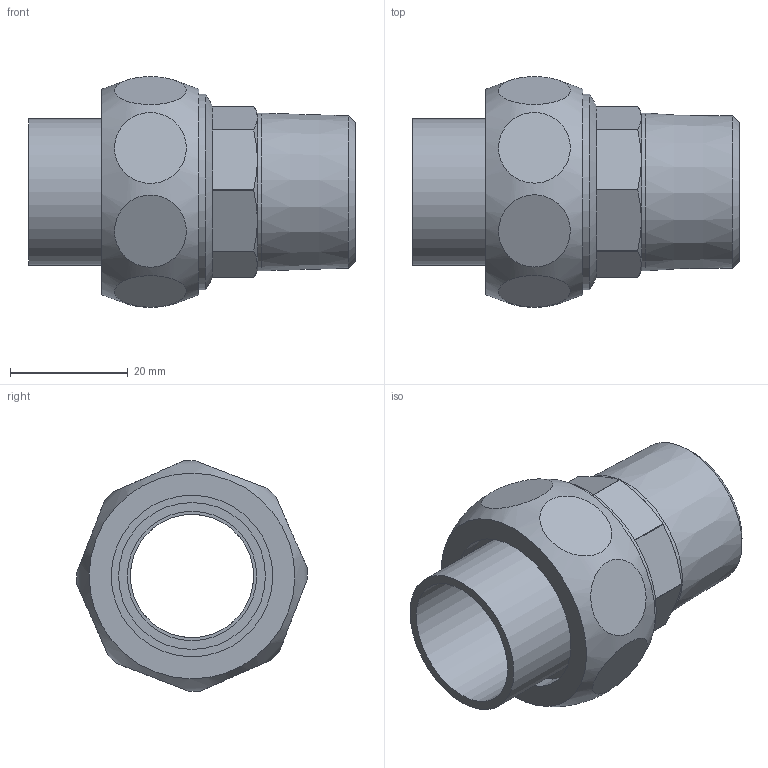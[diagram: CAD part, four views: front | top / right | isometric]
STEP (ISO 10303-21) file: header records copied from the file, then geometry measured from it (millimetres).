
FILE_DESCRIPTION(/* description */ (''),/* implementation_level */ '2;1');
FILE_NAME(/* name */ '\\LG50001\SANHA_Legnica\Engineering\Public\RYSUNKI\SANHA POLSKA\4343\Inventor\stp\143432234.stp',/* time_stamp */ '2016-02-04T11:16:05+01:00',/* author */ ('gomulka'),/* organization */ (''),/* preprocessor_version */ 'ST-DEVELOPER v15.6',/* originating_system */ 'Autodesk Inventor 2015',/* authorisation */ '');
FILE_SCHEMA (('AUTOMOTIVE_DESIGN { 1 0 10303 214 3 1 1 }'));
Length unit declared in the file: millimetre
Products named in the file (4): 14381_22-1(3); 14374_1(1); 14386g_34-1(1); 143432234
Assembly tree (3 placements, depth 2):
  143432234
    14381_22-1(3)
    14374_1(1)
    14386g_34-1(1)
Bounding box: 55.66 x 39.27 x 39.27 mm (x, y, z)
Volume: 19821.3 mm3; surface area: 14418 mm2
Topology: 3 solids, 3 shells, 60 faces, 123 edges, 79 vertices
Faces by surface type: plane 33, cylinder 18, cone 7, torus 1, bspline 1
Full cylindrical faces by diameter (mm): 21 x2, 22 x1, 25 x1, 26.845 x1, 27.5 x2, 29.5 x1, 30.291 x1, 33.249 x1
Entity records: 2037 total; most frequent: CARTESIAN_POINT 768, DIRECTION 262, ORIENTED_EDGE 208, AXIS2_PLACEMENT_3D 119, EDGE_CURVE 104, EDGE_LOOP 94, VERTEX_POINT 78, FACE_OUTER_BOUND 60
